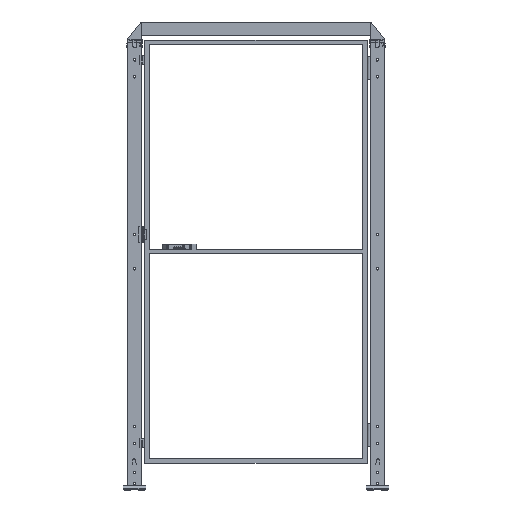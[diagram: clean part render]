
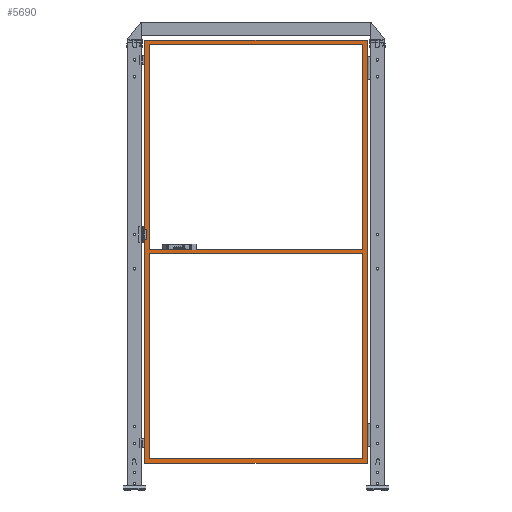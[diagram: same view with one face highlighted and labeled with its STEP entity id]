
A CAD part, top view. The second image highlights one B-rep face of the part: STEP entity #5690.
In plain terms, the highlighted planar face has unit normal (0, 0, 1).
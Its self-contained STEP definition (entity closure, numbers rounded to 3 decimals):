
#5690=ADVANCED_FACE('',(#11648,#11649,#11650),#11651,.F.);
#11648=FACE_BOUND('',#19171,.T.);
#11649=FACE_OUTER_BOUND('',#19172,.T.);
#11650=FACE_BOUND('',#19173,.T.);
#11651=PLANE('',#19174);
#19171=EDGE_LOOP('',(#35965,#35966,#35967,#35968));
#19172=EDGE_LOOP('',(#35969,#35970,#35971,#35972));
#19173=EDGE_LOOP('',(#35973,#35974,#35975,#35976));
#19174=AXIS2_PLACEMENT_3D('',#35977,#35978,#35979);
#35965=ORIENTED_EDGE('',*,*,#42847,.F.);
#35966=ORIENTED_EDGE('',*,*,#42853,.T.);
#35967=ORIENTED_EDGE('',*,*,#42875,.T.);
#35968=ORIENTED_EDGE('',*,*,#42880,.F.);
#35969=ORIENTED_EDGE('',*,*,#42891,.F.);
#35970=ORIENTED_EDGE('',*,*,#42885,.F.);
#35971=ORIENTED_EDGE('',*,*,#42855,.F.);
#35972=ORIENTED_EDGE('',*,*,#42889,.F.);
#35973=ORIENTED_EDGE('',*,*,#42877,.F.);
#35974=ORIENTED_EDGE('',*,*,#42872,.F.);
#35975=ORIENTED_EDGE('',*,*,#42883,.T.);
#35976=ORIENTED_EDGE('',*,*,#42892,.T.);
#35977=CARTESIAN_POINT('',(515.0,130.0,10.0));
#35978=DIRECTION('',(0.,0.0,-1.0));
#35979=DIRECTION('',(-1.0,0.0,0.));
#42847=EDGE_CURVE('',#52941,#52944,#52945,.T.);
#42853=EDGE_CURVE('',#52941,#52952,#52954,.T.);
#42855=EDGE_CURVE('',#52956,#52957,#52958,.T.);
#42872=EDGE_CURVE('',#52984,#52982,#52986,.T.);
#42875=EDGE_CURVE('',#52952,#52988,#52990,.T.);
#42877=EDGE_CURVE('',#52982,#52992,#52993,.T.);
#42880=EDGE_CURVE('',#52944,#52988,#52996,.T.);
#42883=EDGE_CURVE('',#52984,#52998,#53000,.T.);
#42885=EDGE_CURVE('',#52957,#53002,#53003,.T.);
#42889=EDGE_CURVE('',#53006,#52956,#53008,.T.);
#42891=EDGE_CURVE('',#53002,#53006,#53010,.T.);
#42892=EDGE_CURVE('',#52998,#52992,#53011,.T.);
#52941=VERTEX_POINT('',#68243);
#52944=VERTEX_POINT('',#68247);
#52945=LINE('',#68248,#68249);
#52952=VERTEX_POINT('',#68259);
#52954=LINE('',#68262,#68263);
#52956=VERTEX_POINT('',#68265);
#52957=VERTEX_POINT('',#68266);
#52958=LINE('',#68267,#68268);
#52982=VERTEX_POINT('',#68304);
#52984=VERTEX_POINT('',#68307);
#52986=LINE('',#68310,#68311);
#52988=VERTEX_POINT('',#68313);
#52990=LINE('',#68316,#68317);
#52992=VERTEX_POINT('',#68319);
#52993=LINE('',#68320,#68321);
#52996=LINE('',#68325,#68326);
#52998=VERTEX_POINT('',#68328);
#53000=LINE('',#68331,#68332);
#53002=VERTEX_POINT('',#68334);
#53003=LINE('',#68335,#68336);
#53006=VERTEX_POINT('',#68340);
#53008=LINE('',#68343,#68344);
#53010=LINE('',#68346,#68347);
#53011=LINE('',#68348,#68349);
#68243=CARTESIAN_POINT('',(995.0,2000.0,10.));
#68247=CARTESIAN_POINT('',(35.,2000.0,10.0));
#68248=CARTESIAN_POINT('',(515.0,2000.0,10.0));
#68249=VECTOR('',#75637,1.0);
#68259=CARTESIAN_POINT('',(995.0,1080.0,10.));
#68262=CARTESIAN_POINT('',(995.0,1070.0,10.));
#68263=VECTOR('',#75642,1.0);
#68265=CARTESIAN_POINT('',(15.0,120.0,10.0));
#68266=CARTESIAN_POINT('',(15.,2020.0,10.0));
#68267=CARTESIAN_POINT('',(15.0,130.0,10.0));
#68268=VECTOR('',#75643,1.0);
#68304=CARTESIAN_POINT('',(35.,1060.0,10.0));
#68307=CARTESIAN_POINT('',(995.0,1060.0,10.));
#68310=CARTESIAN_POINT('',(515.0,1060.0,10.0));
#68311=VECTOR('',#75658,1.0);
#68313=CARTESIAN_POINT('',(35.,1080.0,10.0));
#68316=CARTESIAN_POINT('',(515.0,1080.0,10.0));
#68317=VECTOR('',#75660,1.0);
#68319=CARTESIAN_POINT('',(35.0,140.0,10.0));
#68320=CARTESIAN_POINT('',(35.,1070.0,10.0));
#68321=VECTOR('',#75661,1.0);
#68325=CARTESIAN_POINT('',(35.,1070.0,10.0));
#68326=VECTOR('',#75663,1.0);
#68328=CARTESIAN_POINT('',(995.0,140.0,10.));
#68331=CARTESIAN_POINT('',(995.0,1070.0,10.));
#68332=VECTOR('',#75665,1.0);
#68334=CARTESIAN_POINT('',(1015.0,2020.0,10.));
#68335=CARTESIAN_POINT('',(25.,2020.0,10.0));
#68336=VECTOR('',#75666,1.0);
#68340=CARTESIAN_POINT('',(1015.0,120.0,10.));
#68343=CARTESIAN_POINT('',(515.0,120.0,10.0));
#68344=VECTOR('',#75669,1.0);
#68346=CARTESIAN_POINT('',(1015.0,1070.0,10.));
#68347=VECTOR('',#75670,1.0);
#68348=CARTESIAN_POINT('',(515.0,140.0,10.0));
#68349=VECTOR('',#75671,1.0);
#75637=DIRECTION('',(-1.0,0.0,0.));
#75642=DIRECTION('',(0.,-1.0,0.));
#75643=DIRECTION('',(0.0,1.0,0.0));
#75658=DIRECTION('',(-1.0,0.0,0.));
#75660=DIRECTION('',(-1.0,0.0,0.));
#75661=DIRECTION('',(0.,-1.0,0.));
#75663=DIRECTION('',(0.,-1.0,0.));
#75665=DIRECTION('',(0.,-1.0,0.));
#75666=DIRECTION('',(1.0,0.,0.));
#75669=DIRECTION('',(-1.0,0.0,0.));
#75670=DIRECTION('',(0.,-1.0,0.));
#75671=DIRECTION('',(-1.0,0.0,0.));
